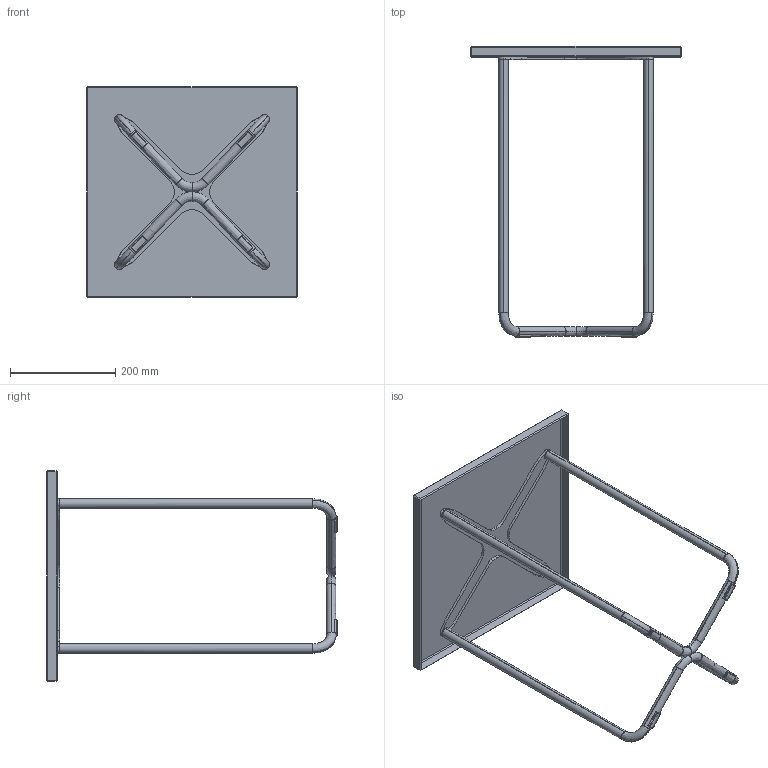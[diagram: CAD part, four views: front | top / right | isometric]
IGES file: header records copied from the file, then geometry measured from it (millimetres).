
Start section: SolidWorks IGES file using analytic representation for surfaces
Global section: file name: C:\Users\aiza\Desktop\Quattro CT 55_3D\Quattro CT 55.IGS; native system: Rhinoceros ( Mar  9 2011 ); preprocessor: Trout Lake IGES 012 Mar  9 2011; date: 210913.103013; units: millimetre
Bounding box: 400 x 552.82 x 400 mm (x, y, z)
Surface area: 499353.5 mm2 (no closed solid volume)
Topology: 0 solids, 0 shells, 291 faces, 1768 edges, 1768 vertices
Faces by surface type: bspline 291
